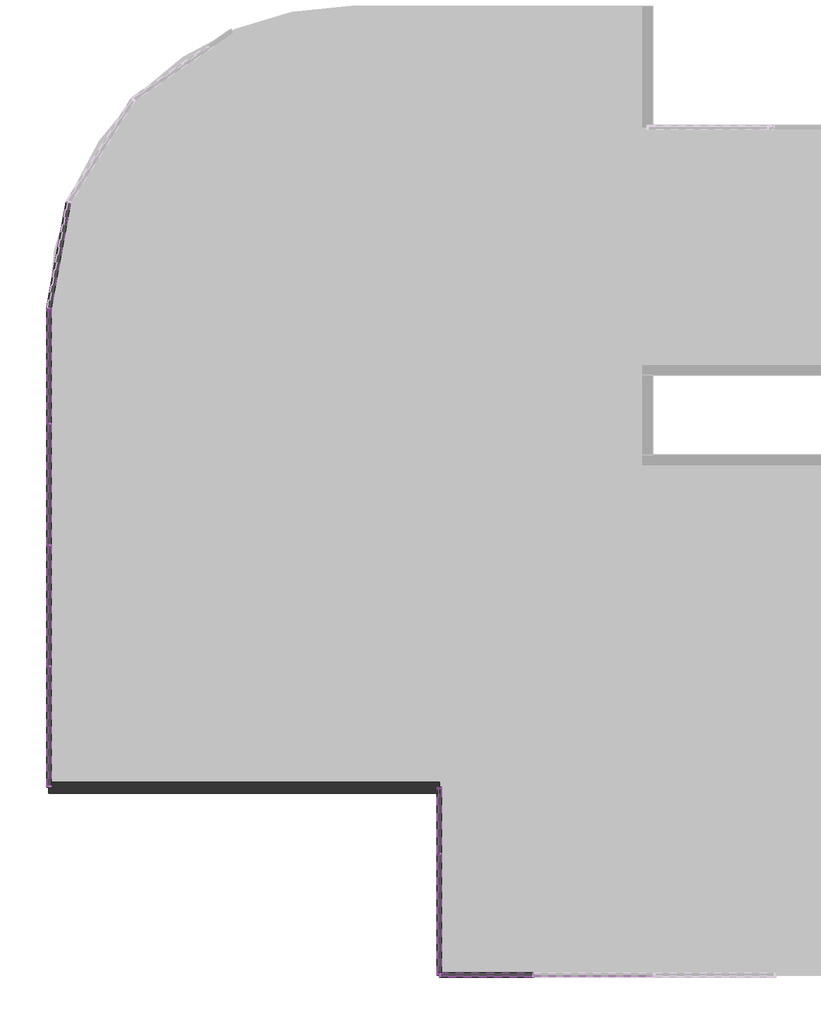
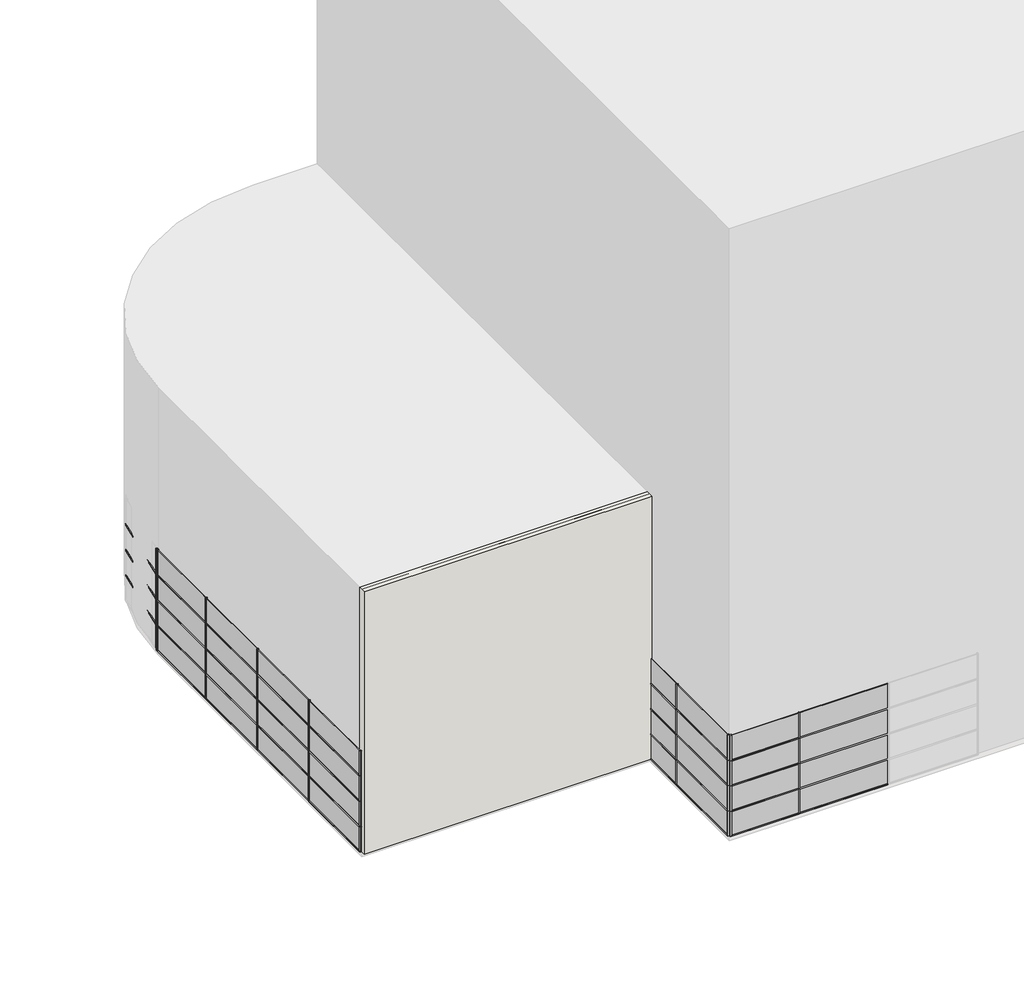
# One storey, part 1 of 4: 76 members, 32 plates, 1 wall.
"""IFC4 building model written with IfcOpenShell, lengths in millimetres."""

from ifc_helpers import new_model, si_unit, origin, origin_with_axes, place, context, project, spatial, polyline, outline, extrude, transform, mapped, element, save
from components import rectangular_mullion_50_x_150mm_d99dc9be, rectangular_mullion_50_x_150mm_182bfbd5, rectangular_mullion_50_x_150mm_402ab136, rectangular_mullion_50_x_150mm_6588f46c, rectangular_mullion_50_x_150mm_a037c29c, rectangular_mullion_50_x_150mm_c2546fd4, rectangular_mullion_50_x_150mm_cd873b1a, rectangular_mullion_50_x_150mm_60738c79, rectangular_mullion_50_x_150mm_bee9d6e8, rectangular_mullion_50_x_150mm_642c3999, rectangular_mullion_50_x_150mm_d9fe8572, rectangular_mullion_50_x_150mm_f56f8a9a, rectangular_mullion_50_x_150mm_a5a25251, system_panel_glazed_ecbc047f, system_panel_glazed_0d1816dc, system_panel_glazed_8e9402eb, system_panel_glazed_89ac83a7, system_panel_glazed_34a378e1, system_panel_glazed_2dc425e2, system_panel_glazed_a7875b16, system_panel_glazed_da5fadb4, system_panel_glazed_e0ec5d24, system_panel_glazed_3a708ec0

model = new_model("IFC4")

# Units and contexts
model_context = context("Model", 3, world=origin())
ifc_project = project(units=[si_unit("LENGTHUNIT", "METRE", prefix="MILLI")], contexts=[model_context])

# Site, building, storey
site = spatial("IfcSite", under=ifc_project)
building = spatial("IfcBuilding", under=site)
storey = spatial("IfcBuildingStorey", under=building, Name="Suteren", Elevation=0.0)

# Members
placement = place(None, origin())
rectangular_mullion_50_x_150mm_shape = rectangular_mullion_50_x_150mm_d99dc9be(model_context)
element("IfcMember", 1, ObjectType="Rectangular Mullion : 50 x 150mm", at=placement, inside=storey, context=model_context, shape_type="MappedRepresentation", body=[
    mapped(rectangular_mullion_50_x_150mm_shape, transform((-2496.7339025, -23624.0160434, 2400.0), x_axis=(-1.0, 0.0, 0.0), y_axis=(0.0, -1.0, 0.0), z_axis=(0.0, 0.0, 1.0))),
])
element("IfcMember", 2, ObjectType="Rectangular Mullion : 50 x 150mm", at=placement, inside=storey, context=model_context, shape_type="MappedRepresentation", body=[
    mapped(rectangular_mullion_50_x_150mm_shape, transform((-2496.7339025, -23624.0160434, 3600.0), x_axis=(-1.0, 0.0, 0.0), y_axis=(0.0, -1.0, 0.0), z_axis=(0.0, 0.0, 1.0))),
])
element("IfcMember", 3, ObjectType="Rectangular Mullion : 50 x 150mm", at=placement, inside=storey, context=model_context, shape_type="MappedRepresentation", body=[
    mapped(rectangular_mullion_50_x_150mm_shape, transform((-2496.7339025, -23624.0160434, 4800.0), x_axis=(-1.0, 0.0, 0.0), y_axis=(0.0, -1.0, 0.0), z_axis=(0.0, 0.0, 1.0))),
])
element("IfcMember", 4, ObjectType="Rectangular Mullion : 50 x 150mm", at=placement, inside=storey, context=model_context, shape_type="MappedRepresentation", body=[
    mapped(rectangular_mullion_50_x_150mm_shape, transform((-5587.173406, -19624.0160434, 2400.0), x_axis=(0.0, 1.0, 0.0), y_axis=(-1.0, 0.0, 0.0), z_axis=(0.0, 0.0, 1.0))),
])
element("IfcMember", 5, ObjectType="Rectangular Mullion : 50 x 150mm", at=placement, inside=storey, context=model_context, shape_type="MappedRepresentation", body=[
    mapped(rectangular_mullion_50_x_150mm_shape, transform((-5587.173406, -19624.0160434, 3600.0), x_axis=(0.0, 1.0, 0.0), y_axis=(-1.0, 0.0, 0.0), z_axis=(0.0, 0.0, 1.0))),
])
element("IfcMember", 6, ObjectType="Rectangular Mullion : 50 x 150mm", at=placement, inside=storey, context=model_context, shape_type="MappedRepresentation", body=[
    mapped(rectangular_mullion_50_x_150mm_shape, transform((-5587.173406, -19624.0160434, 4800.0), x_axis=(0.0, 1.0, 0.0), y_axis=(-1.0, 0.0, 0.0), z_axis=(0.0, 0.0, 1.0))),
])
element("IfcMember", 7, ObjectType="Rectangular Mullion : 50 x 150mm", at=placement, inside=storey, context=model_context, shape_type="MappedRepresentation", body=[
    mapped(rectangular_mullion_50_x_150mm_shape, transform((-18496.7339025, -13423.5291324, 2400.0), x_axis=(0.0, 1.0, 0.0), y_axis=(-1.0, 0.0, 0.0), z_axis=(0.0, 0.0, 1.0))),
])
element("IfcMember", 8, ObjectType="Rectangular Mullion : 50 x 150mm", at=placement, inside=storey, context=model_context, shape_type="MappedRepresentation", body=[
    mapped(rectangular_mullion_50_x_150mm_shape, transform((-18496.7339025, -13423.5291324, 3600.0), x_axis=(0.0, 1.0, 0.0), y_axis=(-1.0, 0.0, 0.0), z_axis=(0.0, 0.0, 1.0))),
])
element("IfcMember", 9, ObjectType="Rectangular Mullion : 50 x 150mm", at=placement, inside=storey, context=model_context, shape_type="MappedRepresentation", body=[
    mapped(rectangular_mullion_50_x_150mm_shape, transform((-18496.7339025, -13423.5291324, 4800.0), x_axis=(0.0, 1.0, 0.0), y_axis=(-1.0, 0.0, 0.0), z_axis=(0.0, 0.0, 1.0))),
])
element("IfcMember", 10, ObjectType="Rectangular Mullion : 50 x 150mm", at=placement, inside=storey, context=model_context, shape_type="MappedRepresentation", body=[
    mapped(rectangular_mullion_50_x_150mm_shape, transform((-18496.7339025, -9423.5291324, 2400.0), x_axis=(0.0, 1.0, 0.0), y_axis=(-1.0, 0.0, 0.0), z_axis=(0.0, 0.0, 1.0))),
])
element("IfcMember", 11, ObjectType="Rectangular Mullion : 50 x 150mm", at=placement, inside=storey, context=model_context, shape_type="MappedRepresentation", body=[
    mapped(rectangular_mullion_50_x_150mm_shape, transform((-18496.7339025, -9423.5291324, 3600.0), x_axis=(0.0, 1.0, 0.0), y_axis=(-1.0, 0.0, 0.0), z_axis=(0.0, 0.0, 1.0))),
])
element("IfcMember", 12, ObjectType="Rectangular Mullion : 50 x 150mm", at=placement, inside=storey, context=model_context, shape_type="MappedRepresentation", body=[
    mapped(rectangular_mullion_50_x_150mm_shape, transform((-18496.7339025, -9423.5291324, 4800.0), x_axis=(0.0, 1.0, 0.0), y_axis=(-1.0, 0.0, 0.0), z_axis=(0.0, 0.0, 1.0))),
])
element("IfcMember", 13, ObjectType="Rectangular Mullion : 50 x 150mm", at=placement, inside=storey, context=model_context, shape_type="MappedRepresentation", body=[
    mapped(rectangular_mullion_50_x_150mm_shape, transform((-18496.7339025, -5423.5291324, 2400.0), x_axis=(0.0, 1.0, 0.0), y_axis=(-1.0, 0.0, 0.0), z_axis=(0.0, 0.0, 1.0))),
])
element("IfcMember", 14, ObjectType="Rectangular Mullion : 50 x 150mm", at=placement, inside=storey, context=model_context, shape_type="MappedRepresentation", body=[
    mapped(rectangular_mullion_50_x_150mm_shape, transform((-18496.7339025, -5423.5291324, 3600.0), x_axis=(0.0, 1.0, 0.0), y_axis=(-1.0, 0.0, 0.0), z_axis=(0.0, 0.0, 1.0))),
])
element("IfcMember", 15, ObjectType="Rectangular Mullion : 50 x 150mm", at=placement, inside=storey, context=model_context, shape_type="MappedRepresentation", body=[
    mapped(rectangular_mullion_50_x_150mm_shape, transform((-18496.7339025, -5423.5291324, 4800.0), x_axis=(0.0, 1.0, 0.0), y_axis=(-1.0, 0.0, 0.0), z_axis=(0.0, 0.0, 1.0))),
])
element("IfcMember", 16, ObjectType="Rectangular Mullion : 50 x 150mm", at=placement, inside=storey, context=model_context, shape_type="MappedRepresentation", body=[
    mapped(rectangular_mullion_50_x_150mm_shape, transform((-2496.7339025, -23624.0160434, 1200.0), x_axis=(-1.0, 0.0, 0.0), y_axis=(0.0, -1.0, 0.0), z_axis=(0.0, 0.0, 1.0))),
])
element("IfcMember", 17, ObjectType="Rectangular Mullion : 50 x 150mm", at=placement, inside=storey, context=model_context, shape_type="MappedRepresentation", body=[
    mapped(rectangular_mullion_50_x_150mm_shape, transform((-5587.173406, -19624.0160434, 1200.0), x_axis=(0.0, 1.0, 0.0), y_axis=(-1.0, 0.0, 0.0), z_axis=(0.0, 0.0, 1.0))),
])
element("IfcMember", 18, ObjectType="Rectangular Mullion : 50 x 150mm", at=placement, inside=storey, context=model_context, shape_type="MappedRepresentation", body=[
    mapped(rectangular_mullion_50_x_150mm_shape, transform((-18496.7339025, -13423.5291324, 1200.0), x_axis=(0.0, 1.0, 0.0), y_axis=(-1.0, 0.0, 0.0), z_axis=(0.0, 0.0, 1.0))),
])
element("IfcMember", 19, ObjectType="Rectangular Mullion : 50 x 150mm", at=placement, inside=storey, context=model_context, shape_type="MappedRepresentation", body=[
    mapped(rectangular_mullion_50_x_150mm_shape, transform((-18496.7339025, -9423.5291324, 1200.0), x_axis=(0.0, 1.0, 0.0), y_axis=(-1.0, 0.0, 0.0), z_axis=(0.0, 0.0, 1.0))),
])
element("IfcMember", 20, ObjectType="Rectangular Mullion : 50 x 150mm", at=placement, inside=storey, context=model_context, shape_type="MappedRepresentation", body=[
    mapped(rectangular_mullion_50_x_150mm_shape, transform((-18496.7339025, -5423.5291324, 1200.0), x_axis=(0.0, 1.0, 0.0), y_axis=(-1.0, 0.0, 0.0), z_axis=(0.0, 0.0, 1.0))),
])
rectangular_mullion_50_x_150mm_2_shape = rectangular_mullion_50_x_150mm_182bfbd5(model_context)
element("IfcMember", 21, ObjectType="Rectangular Mullion : 50 x 150mm", at=placement, inside=storey, context=model_context, shape_type="MappedRepresentation", body=[
    mapped(rectangular_mullion_50_x_150mm_2_shape, transform((-2471.7339025, -23624.0160434, 0.0), x_axis=(0.0, 0.0, -1.0), y_axis=(0.0, -1.0, 0.0), z_axis=(-1.0, 0.0, 0.0))),
])
element("IfcMember", 22, ObjectType="Rectangular Mullion : 50 x 150mm", at=placement, inside=storey, context=model_context, shape_type="MappedRepresentation", body=[
    mapped(rectangular_mullion_50_x_150mm_2_shape, transform((-18496.7339025, -9448.5291324, 0.0), x_axis=(0.0, 0.0, -1.0), y_axis=(-1.0, 0.0, 0.0), z_axis=(0.0, 1.0, 0.0))),
])
element("IfcMember", 23, ObjectType="Rectangular Mullion : 50 x 150mm", at=placement, inside=storey, context=model_context, shape_type="MappedRepresentation", body=[
    mapped(rectangular_mullion_50_x_150mm_2_shape, transform((-18496.7339025, -5448.5291324, 0.0), x_axis=(0.0, 0.0, -1.0), y_axis=(-1.0, 0.0, 0.0), z_axis=(0.0, 1.0, 0.0))),
])
rectangular_mullion_50_x_150mm_3_shape = rectangular_mullion_50_x_150mm_402ab136(model_context)
element("IfcMember", 24, ObjectType="Rectangular Mullion : 50 x 150mm", at=placement, inside=storey, context=model_context, shape_type="MappedRepresentation", body=[
    mapped(rectangular_mullion_50_x_150mm_3_shape, transform((-5587.173406, -19649.0160434, 0.0), x_axis=(0.0, 0.0, -1.0), y_axis=(-1.0, 0.0, 0.0), z_axis=(0.0, 1.0, 0.0))),
])
element("IfcMember", 25, ObjectType="Rectangular Mullion : 50 x 150mm", at=placement, inside=storey, context=model_context, shape_type="MappedRepresentation", body=[
    mapped(rectangular_mullion_50_x_150mm_3_shape, transform((-18496.7339025, -13448.5291324, 0.0), x_axis=(0.0, 0.0, -1.0), y_axis=(-1.0, 0.0, 0.0), z_axis=(0.0, 1.0, 0.0))),
])
rectangular_mullion_50_x_150mm_4_shape = rectangular_mullion_50_x_150mm_6588f46c(model_context)
element("IfcMember", 26, ObjectType="Rectangular Mullion : 50 x 150mm", at=placement, inside=storey, context=model_context, shape_type="MappedRepresentation", body=[
    mapped(rectangular_mullion_50_x_150mm_4_shape, transform((-5587.173406, -23624.0160434, 4800.0), x_axis=(-1.0, 0.0, 0.0), y_axis=(0.0, -1.0, 0.0), z_axis=(0.0, 0.0, 1.0))),
])
element("IfcMember", 27, ObjectType="Rectangular Mullion : 50 x 150mm", at=placement, inside=storey, context=model_context, shape_type="MappedRepresentation", body=[
    mapped(rectangular_mullion_50_x_150mm_4_shape, transform((-5587.173406, -23624.0160434, 2400.0), x_axis=(-1.0, 0.0, 0.0), y_axis=(0.0, -1.0, 0.0), z_axis=(0.0, 0.0, 1.0))),
])
element("IfcMember", 28, ObjectType="Rectangular Mullion : 50 x 150mm", at=placement, inside=storey, context=model_context, shape_type="MappedRepresentation", body=[
    mapped(rectangular_mullion_50_x_150mm_4_shape, transform((-5587.173406, -23624.0160434, 3600.0), x_axis=(-1.0, 0.0, 0.0), y_axis=(0.0, -1.0, 0.0), z_axis=(0.0, 0.0, 1.0))),
])
element("IfcMember", 29, ObjectType="Rectangular Mullion : 50 x 150mm", at=placement, inside=storey, context=model_context, shape_type="MappedRepresentation", body=[
    mapped(rectangular_mullion_50_x_150mm_4_shape, transform((-5587.173406, -17423.5291324, 2400.0), x_axis=(0.0, 1.0, 0.0), y_axis=(-1.0, 0.0, 0.0), z_axis=(0.0, 0.0, 1.0))),
])
element("IfcMember", 30, ObjectType="Rectangular Mullion : 50 x 150mm", at=placement, inside=storey, context=model_context, shape_type="MappedRepresentation", body=[
    mapped(rectangular_mullion_50_x_150mm_4_shape, transform((-5587.173406, -17423.5291324, 3600.0), x_axis=(0.0, 1.0, 0.0), y_axis=(-1.0, 0.0, 0.0), z_axis=(0.0, 0.0, 1.0))),
])
element("IfcMember", 31, ObjectType="Rectangular Mullion : 50 x 150mm", at=placement, inside=storey, context=model_context, shape_type="MappedRepresentation", body=[
    mapped(rectangular_mullion_50_x_150mm_4_shape, transform((-5587.173406, -17423.5291324, 4800.0), x_axis=(0.0, 1.0, 0.0), y_axis=(-1.0, 0.0, 0.0), z_axis=(0.0, 0.0, 1.0))),
])
element("IfcMember", 32, ObjectType="Rectangular Mullion : 50 x 150mm", at=placement, inside=storey, context=model_context, shape_type="MappedRepresentation", body=[
    mapped(rectangular_mullion_50_x_150mm_4_shape, transform((-18496.7339025, -1624.0160434, 2400.0), x_axis=(0.0, 1.0, 0.0), y_axis=(-1.0, 0.0, 0.0), z_axis=(0.0, 0.0, 1.0))),
])
element("IfcMember", 33, ObjectType="Rectangular Mullion : 50 x 150mm", at=placement, inside=storey, context=model_context, shape_type="MappedRepresentation", body=[
    mapped(rectangular_mullion_50_x_150mm_4_shape, transform((-18496.7339025, -1624.0160434, 3600.0), x_axis=(0.0, 1.0, 0.0), y_axis=(-1.0, 0.0, 0.0), z_axis=(0.0, 0.0, 1.0))),
])
element("IfcMember", 34, ObjectType="Rectangular Mullion : 50 x 150mm", at=placement, inside=storey, context=model_context, shape_type="MappedRepresentation", body=[
    mapped(rectangular_mullion_50_x_150mm_4_shape, transform((-18496.7339025, -1624.0160434, 4800.0), x_axis=(0.0, 1.0, 0.0), y_axis=(-1.0, 0.0, 0.0), z_axis=(0.0, 0.0, 1.0))),
])
element("IfcMember", 35, ObjectType="Rectangular Mullion : 50 x 150mm", at=placement, inside=storey, context=model_context, shape_type="MappedRepresentation", body=[
    mapped(rectangular_mullion_50_x_150mm_4_shape, transform((-5587.173406, -23624.0160434, 1200.0), x_axis=(-1.0, 0.0, 0.0), y_axis=(0.0, -1.0, 0.0), z_axis=(0.0, 0.0, 1.0))),
])
element("IfcMember", 36, ObjectType="Rectangular Mullion : 50 x 150mm", at=placement, inside=storey, context=model_context, shape_type="MappedRepresentation", body=[
    mapped(rectangular_mullion_50_x_150mm_4_shape, transform((-5587.173406, -17423.5291324, 1200.0), x_axis=(0.0, 1.0, 0.0), y_axis=(-1.0, 0.0, 0.0), z_axis=(0.0, 0.0, 1.0))),
])
element("IfcMember", 37, ObjectType="Rectangular Mullion : 50 x 150mm", at=placement, inside=storey, context=model_context, shape_type="MappedRepresentation", body=[
    mapped(rectangular_mullion_50_x_150mm_4_shape, transform((-18496.7339025, -1624.0160434, 1200.0), x_axis=(0.0, 1.0, 0.0), y_axis=(-1.0, 0.0, 0.0), z_axis=(0.0, 0.0, 1.0))),
])
rectangular_mullion_50_x_150mm_5_shape = rectangular_mullion_50_x_150mm_a037c29c(model_context)
element("IfcMember", 38, ObjectType="Rectangular Mullion : 50 x 150mm", at=placement, inside=storey, context=model_context, shape_type="MappedRepresentation", body=[
    mapped(rectangular_mullion_50_x_150mm_5_shape, transform((-18496.7339025, -13398.5291324, 2400.0), x_axis=(0.0, 0.0, 1.0), y_axis=(-1.0, 0.0, 0.0), z_axis=(0.0, -1.0, 0.0))),
])
element("IfcMember", 39, ObjectType="Rectangular Mullion : 50 x 150mm", at=placement, inside=storey, context=model_context, shape_type="MappedRepresentation", body=[
    mapped(rectangular_mullion_50_x_150mm_5_shape, transform((-18496.7339025, -9398.5291324, 2400.0), x_axis=(0.0, 0.0, 1.0), y_axis=(-1.0, 0.0, 0.0), z_axis=(0.0, -1.0, 0.0))),
])
element("IfcMember", 40, ObjectType="Rectangular Mullion : 50 x 150mm", at=placement, inside=storey, context=model_context, shape_type="MappedRepresentation", body=[
    mapped(rectangular_mullion_50_x_150mm_5_shape, transform((-18496.7339025, -13398.5291324, 3600.0), x_axis=(0.0, 0.0, 1.0), y_axis=(-1.0, 0.0, 0.0), z_axis=(0.0, -1.0, 0.0))),
])
element("IfcMember", 41, ObjectType="Rectangular Mullion : 50 x 150mm", at=placement, inside=storey, context=model_context, shape_type="MappedRepresentation", body=[
    mapped(rectangular_mullion_50_x_150mm_5_shape, transform((-18496.7339025, -9398.5291324, 3600.0), x_axis=(0.0, 0.0, 1.0), y_axis=(-1.0, 0.0, 0.0), z_axis=(0.0, -1.0, 0.0))),
])
element("IfcMember", 42, ObjectType="Rectangular Mullion : 50 x 150mm", at=placement, inside=storey, context=model_context, shape_type="MappedRepresentation", body=[
    mapped(rectangular_mullion_50_x_150mm_5_shape, transform((-18496.7339025, -13398.5291324, 1200.0), x_axis=(0.0, 0.0, 1.0), y_axis=(-1.0, 0.0, 0.0), z_axis=(0.0, -1.0, 0.0))),
])
element("IfcMember", 43, ObjectType="Rectangular Mullion : 50 x 150mm", at=placement, inside=storey, context=model_context, shape_type="MappedRepresentation", body=[
    mapped(rectangular_mullion_50_x_150mm_5_shape, transform((-18496.7339025, -9398.5291324, 1200.0), x_axis=(0.0, 0.0, 1.0), y_axis=(-1.0, 0.0, 0.0), z_axis=(0.0, -1.0, 0.0))),
])
rectangular_mullion_50_x_150mm_6_shape = rectangular_mullion_50_x_150mm_c2546fd4(model_context)
element("IfcMember", 44, ObjectType="Rectangular Mullion : 50 x 150mm", at=placement, inside=storey, context=model_context, shape_type="MappedRepresentation", body=[
    mapped(rectangular_mullion_50_x_150mm_6_shape, transform((-5587.173406, -23574.0160434, 1200.0), x_axis=(0.0, 0.0, 1.0), y_axis=(-1.0, 0.0, 0.0), z_axis=(0.0, -1.0, 0.0))),
])
element("IfcMember", 45, ObjectType="Rectangular Mullion : 50 x 150mm", at=placement, inside=storey, context=model_context, shape_type="MappedRepresentation", body=[
    mapped(rectangular_mullion_50_x_150mm_6_shape, transform((-5587.173406, -23574.0160434, 2400.0), x_axis=(0.0, 0.0, 1.0), y_axis=(-1.0, 0.0, 0.0), z_axis=(0.0, -1.0, 0.0))),
])
element("IfcMember", 46, ObjectType="Rectangular Mullion : 50 x 150mm", at=placement, inside=storey, context=model_context, shape_type="MappedRepresentation", body=[
    mapped(rectangular_mullion_50_x_150mm_6_shape, transform((-5587.173406, -23574.0160434, 3600.0), x_axis=(0.0, 0.0, 1.0), y_axis=(-1.0, 0.0, 0.0), z_axis=(0.0, -1.0, 0.0))),
])
element("IfcMember", 47, ObjectType="Rectangular Mullion : 50 x 150mm", at=placement, inside=storey, context=model_context, shape_type="MappedRepresentation", body=[
    mapped(rectangular_mullion_50_x_150mm_6_shape, transform((-18496.7339025, -17373.5291324, 2400.0), x_axis=(0.0, 0.0, 1.0), y_axis=(-1.0, 0.0, 0.0), z_axis=(0.0, -1.0, 0.0))),
])
element("IfcMember", 48, ObjectType="Rectangular Mullion : 50 x 150mm", at=placement, inside=storey, context=model_context, shape_type="MappedRepresentation", body=[
    mapped(rectangular_mullion_50_x_150mm_6_shape, transform((-18496.7339025, -17373.5291324, 3600.0), x_axis=(0.0, 0.0, 1.0), y_axis=(-1.0, 0.0, 0.0), z_axis=(0.0, -1.0, 0.0))),
])
element("IfcMember", 49, ObjectType="Rectangular Mullion : 50 x 150mm", at=placement, inside=storey, context=model_context, shape_type="MappedRepresentation", body=[
    mapped(rectangular_mullion_50_x_150mm_6_shape, transform((-18496.7339025, -17373.5291324, 1200.0), x_axis=(0.0, 0.0, 1.0), y_axis=(-1.0, 0.0, 0.0), z_axis=(0.0, -1.0, 0.0))),
])
element("IfcMember", 50, ObjectType="Rectangular Mullion : 50 x 150mm", at=placement, inside=storey, context=model_context, shape_type="MappedRepresentation", body=[
    mapped(rectangular_mullion_50_x_150mm_4_shape, transform((-5587.173406, -23624.0160434, 1200.0), x_axis=(0.0, -1.0, 0.0), y_axis=(-1.0, 0.0, 0.0), z_axis=(0.0, 0.0, -1.0))),
])
element("IfcMember", 51, ObjectType="Rectangular Mullion : 50 x 150mm", at=placement, inside=storey, context=model_context, shape_type="MappedRepresentation", body=[
    mapped(rectangular_mullion_50_x_150mm_4_shape, transform((-5587.173406, -23624.0160434, 2400.0), x_axis=(0.0, -1.0, 0.0), y_axis=(-1.0, 0.0, 0.0), z_axis=(0.0, 0.0, -1.0))),
])
element("IfcMember", 52, ObjectType="Rectangular Mullion : 50 x 150mm", at=placement, inside=storey, context=model_context, shape_type="MappedRepresentation", body=[
    mapped(rectangular_mullion_50_x_150mm_4_shape, transform((-5587.173406, -23624.0160434, 3600.0), x_axis=(0.0, -1.0, 0.0), y_axis=(-1.0, 0.0, 0.0), z_axis=(0.0, 0.0, -1.0))),
])
element("IfcMember", 53, ObjectType="Rectangular Mullion : 50 x 150mm", at=placement, inside=storey, context=model_context, shape_type="MappedRepresentation", body=[
    mapped(rectangular_mullion_50_x_150mm_4_shape, transform((-18496.7339025, -1624.0160434, 1200.0), x_axis=(-0.18033241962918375, -0.9836057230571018, 0.0), y_axis=(-0.9836057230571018, 0.18033241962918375, 0.0), z_axis=(0.0, 0.0, -1.0))),
])
element("IfcMember", 54, ObjectType="Rectangular Mullion : 50 x 150mm", at=placement, inside=storey, context=model_context, shape_type="MappedRepresentation", body=[
    mapped(rectangular_mullion_50_x_150mm_4_shape, transform((-18496.7339025, -1624.0160434, 2400.0), x_axis=(-0.18033241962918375, -0.9836057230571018, 0.0), y_axis=(-0.9836057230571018, 0.18033241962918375, 0.0), z_axis=(0.0, 0.0, -1.0))),
])
element("IfcMember", 55, ObjectType="Rectangular Mullion : 50 x 150mm", at=placement, inside=storey, context=model_context, shape_type="MappedRepresentation", body=[
    mapped(rectangular_mullion_50_x_150mm_4_shape, transform((-18496.7339025, -1624.0160434, 3600.0), x_axis=(-0.18033241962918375, -0.9836057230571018, 0.0), y_axis=(-0.9836057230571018, 0.18033241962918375, 0.0), z_axis=(0.0, 0.0, -1.0))),
])
element("IfcMember", 56, ObjectType="Rectangular Mullion : 50 x 150mm", at=placement, inside=storey, context=model_context, shape_type="MappedRepresentation", body=[
    mapped(rectangular_mullion_50_x_150mm_4_shape, transform((-18496.7339025, -17423.5291324, 2400.0), x_axis=(0.0, -1.0, 0.0), y_axis=(-1.0, 0.0, 0.0), z_axis=(0.0, 0.0, -1.0))),
])
element("IfcMember", 57, ObjectType="Rectangular Mullion : 50 x 150mm", at=placement, inside=storey, context=model_context, shape_type="MappedRepresentation", body=[
    mapped(rectangular_mullion_50_x_150mm_4_shape, transform((-18496.7339025, -17423.5291324, 3600.0), x_axis=(0.0, -1.0, 0.0), y_axis=(-1.0, 0.0, 0.0), z_axis=(0.0, 0.0, -1.0))),
])
element("IfcMember", 58, ObjectType="Rectangular Mullion : 50 x 150mm", at=placement, inside=storey, context=model_context, shape_type="MappedRepresentation", body=[
    mapped(rectangular_mullion_50_x_150mm_4_shape, transform((-18496.7339025, -17423.5291324, 1200.0), x_axis=(0.0, -1.0, 0.0), y_axis=(-1.0, 0.0, 0.0), z_axis=(0.0, 0.0, -1.0))),
])
element("IfcMember", 59, ObjectType="Rectangular Mullion : 50 x 150mm", at=placement, inside=storey, context=model_context, shape_type="MappedRepresentation", body=[
    mapped(rectangular_mullion_50_x_150mm_4_shape, transform((-5587.173406, -23624.0160434, 0.0), x_axis=(0.0, -1.0, 0.0), y_axis=(-1.0, 0.0, 0.0), z_axis=(0.0, 0.0, -1.0))),
])
element("IfcMember", 60, ObjectType="Rectangular Mullion : 50 x 150mm", at=placement, inside=storey, context=model_context, shape_type="MappedRepresentation", body=[
    mapped(rectangular_mullion_50_x_150mm_4_shape, transform((-18496.7339025, -1624.0160434, 0.0), x_axis=(-0.18033241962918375, -0.9836057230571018, 0.0), y_axis=(-0.9836057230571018, 0.18033241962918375, 0.0), z_axis=(0.0, 0.0, -1.0))),
])
element("IfcMember", 61, ObjectType="Rectangular Mullion : 50 x 150mm", at=placement, inside=storey, context=model_context, shape_type="MappedRepresentation", body=[
    mapped(rectangular_mullion_50_x_150mm_4_shape, transform((-18496.7339025, -17423.5291324, 0.0), x_axis=(0.0, -1.0, 0.0), y_axis=(-1.0, 0.0, 0.0), z_axis=(0.0, 0.0, -1.0))),
])
rectangular_mullion_50_x_150mm_7_shape = rectangular_mullion_50_x_150mm_cd873b1a(model_context)
element("IfcMember", 62, ObjectType="Rectangular Mullion : 50 x 150mm", at=placement, inside=storey, context=model_context, shape_type="MappedRepresentation", body=[
    mapped(rectangular_mullion_50_x_150mm_7_shape, transform((-2521.7339025, -23624.0160434, 3600.0), x_axis=(0.0, 0.0, 1.0), y_axis=(0.0, -1.0, 0.0), z_axis=(1.0, 0.0, 0.0))),
])
element("IfcMember", 63, ObjectType="Rectangular Mullion : 50 x 150mm", at=placement, inside=storey, context=model_context, shape_type="MappedRepresentation", body=[
    mapped(rectangular_mullion_50_x_150mm_7_shape, transform((-2521.7339025, -23624.0160434, 1200.0), x_axis=(0.0, 0.0, 1.0), y_axis=(0.0, -1.0, 0.0), z_axis=(1.0, 0.0, 0.0))),
])
element("IfcMember", 64, ObjectType="Rectangular Mullion : 50 x 150mm", at=placement, inside=storey, context=model_context, shape_type="MappedRepresentation", body=[
    mapped(rectangular_mullion_50_x_150mm_7_shape, transform((-2521.7339025, -23624.0160434, 2400.0), x_axis=(0.0, 0.0, 1.0), y_axis=(0.0, -1.0, 0.0), z_axis=(1.0, 0.0, 0.0))),
])
rectangular_mullion_50_x_150mm_8_shape = rectangular_mullion_50_x_150mm_60738c79(model_context)
element("IfcMember", 65, ObjectType="Rectangular Mullion : 50 x 150mm", at=placement, inside=storey, context=model_context, shape_type="MappedRepresentation", body=[
    mapped(rectangular_mullion_50_x_150mm_8_shape, transform((-5537.173406, -23624.0160434, 0.0), x_axis=(0.0, 0.0, -1.0), y_axis=(0.0, -1.0, 0.0), z_axis=(-1.0, 0.0, 0.0))),
])
rectangular_mullion_50_x_150mm_9_shape = rectangular_mullion_50_x_150mm_bee9d6e8(model_context)
element("IfcMember", 66, ObjectType="Rectangular Mullion : 50 x 150mm", at=placement, inside=storey, context=model_context, shape_type="MappedRepresentation", body=[
    mapped(rectangular_mullion_50_x_150mm_9_shape, transform((-5587.173406, -17473.5291324, 0.0), x_axis=(0.0, 0.0, -1.0), y_axis=(-1.0, 0.0, 0.0), z_axis=(0.0, 1.0, 0.0))),
])
rectangular_mullion_50_x_150mm_10_shape = rectangular_mullion_50_x_150mm_642c3999(model_context)
element("IfcMember", 67, ObjectType="Rectangular Mullion : 50 x 150mm", at=placement, inside=storey, context=model_context, shape_type="MappedRepresentation", body=[
    mapped(rectangular_mullion_50_x_150mm_10_shape, transform((-5587.173406, -19599.0160434, 1200.0), x_axis=(0.0, 0.0, 1.0), y_axis=(-1.0, 0.0, 0.0), z_axis=(0.0, -1.0, 0.0))),
])
element("IfcMember", 68, ObjectType="Rectangular Mullion : 50 x 150mm", at=placement, inside=storey, context=model_context, shape_type="MappedRepresentation", body=[
    mapped(rectangular_mullion_50_x_150mm_10_shape, transform((-5587.173406, -19599.0160434, 2400.0), x_axis=(0.0, 0.0, 1.0), y_axis=(-1.0, 0.0, 0.0), z_axis=(0.0, -1.0, 0.0))),
])
element("IfcMember", 69, ObjectType="Rectangular Mullion : 50 x 150mm", at=placement, inside=storey, context=model_context, shape_type="MappedRepresentation", body=[
    mapped(rectangular_mullion_50_x_150mm_10_shape, transform((-5587.173406, -19599.0160434, 3600.0), x_axis=(0.0, 0.0, 1.0), y_axis=(-1.0, 0.0, 0.0), z_axis=(0.0, -1.0, 0.0))),
])
rectangular_mullion_50_x_150mm_11_shape = rectangular_mullion_50_x_150mm_d9fe8572(model_context)
element("IfcMember", 70, ObjectType="Rectangular Mullion : 50 x 150mm", at=placement, inside=storey, context=model_context, shape_type="MappedRepresentation", body=[
    mapped(rectangular_mullion_50_x_150mm_11_shape, transform((-18487.7172815, -1574.8357573, 1200.0), x_axis=(0.0, 0.0, 1.0), y_axis=(-0.9836057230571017, 0.1803324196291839, 0.0), z_axis=(-0.1803324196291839, -0.9836057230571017, 0.0))),
])
element("IfcMember", 71, ObjectType="Rectangular Mullion : 50 x 150mm", at=placement, inside=storey, context=model_context, shape_type="MappedRepresentation", body=[
    mapped(rectangular_mullion_50_x_150mm_11_shape, transform((-18487.7172815, -1574.8357573, 2400.0), x_axis=(0.0, 0.0, 1.0), y_axis=(-0.9836057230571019, 0.18033241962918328, 0.0), z_axis=(-0.18033241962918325, -0.9836057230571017, 0.0))),
])
element("IfcMember", 72, ObjectType="Rectangular Mullion : 50 x 150mm", at=placement, inside=storey, context=model_context, shape_type="MappedRepresentation", body=[
    mapped(rectangular_mullion_50_x_150mm_11_shape, transform((-18487.7172815, -1574.8357573, 3600.0), x_axis=(0.0, 0.0, 1.0), y_axis=(-0.9836057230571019, 0.18033241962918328, 0.0), z_axis=(-0.18033241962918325, -0.9836057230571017, 0.0))),
])
rectangular_mullion_50_x_150mm_12_shape = rectangular_mullion_50_x_150mm_f56f8a9a(model_context)
element("IfcMember", 73, ObjectType="Rectangular Mullion : 50 x 150mm", at=placement, inside=storey, context=model_context, shape_type="MappedRepresentation", body=[
    mapped(rectangular_mullion_50_x_150mm_12_shape, transform((-18496.7339025, -5398.5291324, 2400.0), x_axis=(0.0, 0.0, 1.0), y_axis=(-1.0, 0.0, 0.0), z_axis=(0.0, -1.0, 0.0))),
])
element("IfcMember", 74, ObjectType="Rectangular Mullion : 50 x 150mm", at=placement, inside=storey, context=model_context, shape_type="MappedRepresentation", body=[
    mapped(rectangular_mullion_50_x_150mm_12_shape, transform((-18496.7339025, -5398.5291324, 3600.0), x_axis=(0.0, 0.0, 1.0), y_axis=(-1.0, 0.0, 0.0), z_axis=(0.0, -1.0, 0.0))),
])
element("IfcMember", 75, ObjectType="Rectangular Mullion : 50 x 150mm", at=placement, inside=storey, context=model_context, shape_type="MappedRepresentation", body=[
    mapped(rectangular_mullion_50_x_150mm_12_shape, transform((-18496.7339025, -5398.5291324, 1200.0), x_axis=(0.0, 0.0, 1.0), y_axis=(-1.0, 0.0, 0.0), z_axis=(0.0, -1.0, 0.0))),
])
rectangular_mullion_50_x_150mm_13_shape = rectangular_mullion_50_x_150mm_a5a25251(model_context)
element("IfcMember", 76, ObjectType="Rectangular Mullion : 50 x 150mm", at=placement, inside=storey, context=model_context, shape_type="MappedRepresentation", body=[
    mapped(rectangular_mullion_50_x_150mm_13_shape, transform((-18496.7339025, -1674.0160434, 0.0), x_axis=(0.0, 0.0, -1.0), y_axis=(-1.0, 0.0, 0.0), z_axis=(0.0, 1.0, 0.0))),
])

# Plates
system_panel_glazed_shape = system_panel_glazed_ecbc047f(model_context)
element("IfcPlate", 77, ObjectType="System Panel : Glazed", at=placement, inside=storey, context=model_context, shape_type="MappedRepresentation", body=[
    mapped(system_panel_glazed_shape, transform((-5587.173406, -21611.5160434, 50.0), x_axis=(0.0, 1.0, 0.0), y_axis=(-1.0, 0.0, 0.0), z_axis=(0.0, 0.0, 1.0))),
])
element("IfcPlate", 78, ObjectType="System Panel : Glazed", at=placement, inside=storey, context=model_context, shape_type="MappedRepresentation", body=[
    mapped(system_panel_glazed_shape, transform((-18496.7339025, -15411.0291324, 50.0), x_axis=(0.0, 1.0, 0.0), y_axis=(-1.0, 0.0, 0.0), z_axis=(0.0, 0.0, 1.0))),
])
system_panel_glazed_2_shape = system_panel_glazed_0d1816dc(model_context)
element("IfcPlate", 79, ObjectType="System Panel : Glazed", at=placement, inside=storey, context=model_context, shape_type="MappedRepresentation", body=[
    mapped(system_panel_glazed_2_shape, transform((-496.7339025, -23624.0160434, 50.0), x_axis=(-1.0, 0.0, 0.0), y_axis=(0.0, -1.0, 0.0), z_axis=(0.0, 0.0, 1.0))),
])
element("IfcPlate", 80, ObjectType="System Panel : Glazed", at=placement, inside=storey, context=model_context, shape_type="MappedRepresentation", body=[
    mapped(system_panel_glazed_2_shape, transform((-18496.7339025, -11423.5291324, 50.0), x_axis=(0.0, 1.0, 0.0), y_axis=(-1.0, 0.0, 0.0), z_axis=(0.0, 0.0, 1.0))),
])
element("IfcPlate", 81, ObjectType="System Panel : Glazed", at=placement, inside=storey, context=model_context, shape_type="MappedRepresentation", body=[
    mapped(system_panel_glazed_2_shape, transform((-18496.7339025, -7423.5291324, 50.0), x_axis=(0.0, 1.0, 0.0), y_axis=(-1.0, 0.0, 0.0), z_axis=(0.0, 0.0, 1.0))),
])
system_panel_glazed_3_shape = system_panel_glazed_8e9402eb(model_context)
element("IfcPlate", 82, ObjectType="System Panel : Glazed", at=placement, inside=storey, context=model_context, shape_type="MappedRepresentation", body=[
    mapped(system_panel_glazed_3_shape, transform((-5587.173406, -21611.5160434, 1225.0), x_axis=(0.0, 1.0, 0.0), y_axis=(-1.0, 0.0, 0.0), z_axis=(0.0, 0.0, 1.0))),
])
element("IfcPlate", 83, ObjectType="System Panel : Glazed", at=placement, inside=storey, context=model_context, shape_type="MappedRepresentation", body=[
    mapped(system_panel_glazed_3_shape, transform((-5587.173406, -21611.5160434, 2425.0), x_axis=(0.0, 1.0, 0.0), y_axis=(-1.0, 0.0, 0.0), z_axis=(0.0, 0.0, 1.0))),
])
element("IfcPlate", 84, ObjectType="System Panel : Glazed", at=placement, inside=storey, context=model_context, shape_type="MappedRepresentation", body=[
    mapped(system_panel_glazed_3_shape, transform((-5587.173406, -21611.5160434, 3625.0), x_axis=(0.0, 1.0, 0.0), y_axis=(-1.0, 0.0, 0.0), z_axis=(0.0, 0.0, 1.0))),
])
element("IfcPlate", 85, ObjectType="System Panel : Glazed", at=placement, inside=storey, context=model_context, shape_type="MappedRepresentation", body=[
    mapped(system_panel_glazed_3_shape, transform((-18496.7339025, -15411.0291324, 1225.0), x_axis=(0.0, 1.0, 0.0), y_axis=(-1.0, 0.0, 0.0), z_axis=(0.0, 0.0, 1.0))),
])
element("IfcPlate", 86, ObjectType="System Panel : Glazed", at=placement, inside=storey, context=model_context, shape_type="MappedRepresentation", body=[
    mapped(system_panel_glazed_3_shape, transform((-18496.7339025, -15411.0291324, 2425.0), x_axis=(0.0, 1.0, 0.0), y_axis=(-1.0, 0.0, 0.0), z_axis=(0.0, 0.0, 1.0))),
])
element("IfcPlate", 87, ObjectType="System Panel : Glazed", at=placement, inside=storey, context=model_context, shape_type="MappedRepresentation", body=[
    mapped(system_panel_glazed_3_shape, transform((-18496.7339025, -15411.0291324, 3625.0), x_axis=(0.0, 1.0, 0.0), y_axis=(-1.0, 0.0, 0.0), z_axis=(0.0, 0.0, 1.0))),
])
system_panel_glazed_4_shape = system_panel_glazed_89ac83a7(model_context)
element("IfcPlate", 88, ObjectType="System Panel : Glazed", at=placement, inside=storey, context=model_context, shape_type="MappedRepresentation", body=[
    mapped(system_panel_glazed_4_shape, transform((-496.7339025, -23624.0160434, 1225.0), x_axis=(-1.0, 0.0, 0.0), y_axis=(0.0, -1.0, 0.0), z_axis=(0.0, 0.0, 1.0))),
])
element("IfcPlate", 89, ObjectType="System Panel : Glazed", at=placement, inside=storey, context=model_context, shape_type="MappedRepresentation", body=[
    mapped(system_panel_glazed_4_shape, transform((-496.7339025, -23624.0160434, 2425.0), x_axis=(-1.0, 0.0, 0.0), y_axis=(0.0, -1.0, 0.0), z_axis=(0.0, 0.0, 1.0))),
])
element("IfcPlate", 90, ObjectType="System Panel : Glazed", at=placement, inside=storey, context=model_context, shape_type="MappedRepresentation", body=[
    mapped(system_panel_glazed_4_shape, transform((-496.7339025, -23624.0160434, 3625.0), x_axis=(-1.0, 0.0, 0.0), y_axis=(0.0, -1.0, 0.0), z_axis=(0.0, 0.0, 1.0))),
])
element("IfcPlate", 91, ObjectType="System Panel : Glazed", at=placement, inside=storey, context=model_context, shape_type="MappedRepresentation", body=[
    mapped(system_panel_glazed_4_shape, transform((-18496.7339025, -11423.5291324, 1225.0), x_axis=(0.0, 1.0, 0.0), y_axis=(-1.0, 0.0, 0.0), z_axis=(0.0, 0.0, 1.0))),
])
element("IfcPlate", 92, ObjectType="System Panel : Glazed", at=placement, inside=storey, context=model_context, shape_type="MappedRepresentation", body=[
    mapped(system_panel_glazed_4_shape, transform((-18496.7339025, -7423.5291324, 1225.0), x_axis=(0.0, 1.0, 0.0), y_axis=(-1.0, 0.0, 0.0), z_axis=(0.0, 0.0, 1.0))),
])
element("IfcPlate", 93, ObjectType="System Panel : Glazed", at=placement, inside=storey, context=model_context, shape_type="MappedRepresentation", body=[
    mapped(system_panel_glazed_4_shape, transform((-18496.7339025, -11423.5291324, 2425.0), x_axis=(0.0, 1.0, 0.0), y_axis=(-1.0, 0.0, 0.0), z_axis=(0.0, 0.0, 1.0))),
])
element("IfcPlate", 94, ObjectType="System Panel : Glazed", at=placement, inside=storey, context=model_context, shape_type="MappedRepresentation", body=[
    mapped(system_panel_glazed_4_shape, transform((-18496.7339025, -7423.5291324, 2425.0), x_axis=(0.0, 1.0, 0.0), y_axis=(-1.0, 0.0, 0.0), z_axis=(0.0, 0.0, 1.0))),
])
element("IfcPlate", 95, ObjectType="System Panel : Glazed", at=placement, inside=storey, context=model_context, shape_type="MappedRepresentation", body=[
    mapped(system_panel_glazed_4_shape, transform((-18496.7339025, -11423.5291324, 3625.0), x_axis=(0.0, 1.0, 0.0), y_axis=(-1.0, 0.0, 0.0), z_axis=(0.0, 0.0, 1.0))),
])
element("IfcPlate", 96, ObjectType="System Panel : Glazed", at=placement, inside=storey, context=model_context, shape_type="MappedRepresentation", body=[
    mapped(system_panel_glazed_4_shape, transform((-18496.7339025, -7423.5291324, 3625.0), x_axis=(0.0, 1.0, 0.0), y_axis=(-1.0, 0.0, 0.0), z_axis=(0.0, 0.0, 1.0))),
])
system_panel_glazed_5_shape = system_panel_glazed_34a378e1(model_context)
element("IfcPlate", 97, ObjectType="System Panel : Glazed", at=placement, inside=storey, context=model_context, shape_type="MappedRepresentation", body=[
    mapped(system_panel_glazed_5_shape, transform((-4029.4536543, -23624.0160434, 50.0), x_axis=(-1.0, 0.0, 0.0), y_axis=(0.0, -1.0, 0.0), z_axis=(0.0, 0.0, 1.0))),
])
system_panel_glazed_6_shape = system_panel_glazed_2dc425e2(model_context)
element("IfcPlate", 98, ObjectType="System Panel : Glazed", at=placement, inside=storey, context=model_context, shape_type="MappedRepresentation", body=[
    mapped(system_panel_glazed_6_shape, transform((-4029.4536543, -23624.0160434, 1225.0), x_axis=(-1.0, 0.0, 0.0), y_axis=(0.0, -1.0, 0.0), z_axis=(0.0, 0.0, 1.0))),
])
element("IfcPlate", 99, ObjectType="System Panel : Glazed", at=placement, inside=storey, context=model_context, shape_type="MappedRepresentation", body=[
    mapped(system_panel_glazed_6_shape, transform((-4029.4536543, -23624.0160434, 2425.0), x_axis=(-1.0, 0.0, 0.0), y_axis=(0.0, -1.0, 0.0), z_axis=(0.0, 0.0, 1.0))),
])
element("IfcPlate", 100, ObjectType="System Panel : Glazed", at=placement, inside=storey, context=model_context, shape_type="MappedRepresentation", body=[
    mapped(system_panel_glazed_6_shape, transform((-4029.4536543, -23624.0160434, 3625.0), x_axis=(-1.0, 0.0, 0.0), y_axis=(0.0, -1.0, 0.0), z_axis=(0.0, 0.0, 1.0))),
])
system_panel_glazed_7_shape = system_panel_glazed_a7875b16(model_context)
element("IfcPlate", 101, ObjectType="System Panel : Glazed", at=placement, inside=storey, context=model_context, shape_type="MappedRepresentation", body=[
    mapped(system_panel_glazed_7_shape, transform((-5587.173406, -18536.2725879, 50.0), x_axis=(0.0, 1.0, 0.0), y_axis=(-1.0, 0.0, 0.0), z_axis=(0.0, 0.0, 1.0))),
])
system_panel_glazed_8_shape = system_panel_glazed_da5fadb4(model_context)
element("IfcPlate", 102, ObjectType="System Panel : Glazed", at=placement, inside=storey, context=model_context, shape_type="MappedRepresentation", body=[
    mapped(system_panel_glazed_8_shape, transform((-5587.173406, -18536.2725879, 1225.0), x_axis=(0.0, 1.0, 0.0), y_axis=(-1.0, 0.0, 0.0), z_axis=(0.0, 0.0, 1.0))),
])
element("IfcPlate", 103, ObjectType="System Panel : Glazed", at=placement, inside=storey, context=model_context, shape_type="MappedRepresentation", body=[
    mapped(system_panel_glazed_8_shape, transform((-5587.173406, -18536.2725879, 2425.0), x_axis=(0.0, 1.0, 0.0), y_axis=(-1.0, 0.0, 0.0), z_axis=(0.0, 0.0, 1.0))),
])
element("IfcPlate", 104, ObjectType="System Panel : Glazed", at=placement, inside=storey, context=model_context, shape_type="MappedRepresentation", body=[
    mapped(system_panel_glazed_8_shape, transform((-5587.173406, -18536.2725879, 3625.0), x_axis=(0.0, 1.0, 0.0), y_axis=(-1.0, 0.0, 0.0), z_axis=(0.0, 0.0, 1.0))),
])
system_panel_glazed_9_shape = system_panel_glazed_e0ec5d24(model_context)
element("IfcPlate", 105, ObjectType="System Panel : Glazed", at=placement, inside=storey, context=model_context, shape_type="MappedRepresentation", body=[
    mapped(system_panel_glazed_9_shape, transform((-18496.7339025, -3536.2725879, 50.0), x_axis=(0.0, 1.0, 0.0), y_axis=(-1.0, 0.0, 0.0), z_axis=(0.0, 0.0, 1.0))),
])
system_panel_glazed_10_shape = system_panel_glazed_3a708ec0(model_context)
element("IfcPlate", 106, ObjectType="System Panel : Glazed", at=placement, inside=storey, context=model_context, shape_type="MappedRepresentation", body=[
    mapped(system_panel_glazed_10_shape, transform((-18496.7339025, -3536.2725879, 1225.0), x_axis=(0.0, 1.0, 0.0), y_axis=(-1.0, 0.0, 0.0), z_axis=(0.0, 0.0, 1.0))),
])
element("IfcPlate", 107, ObjectType="System Panel : Glazed", at=placement, inside=storey, context=model_context, shape_type="MappedRepresentation", body=[
    mapped(system_panel_glazed_10_shape, transform((-18496.7339025, -3536.2725879, 2425.0), x_axis=(0.0, 1.0, 0.0), y_axis=(-1.0, 0.0, 0.0), z_axis=(0.0, 0.0, 1.0))),
])
element("IfcPlate", 108, ObjectType="System Panel : Glazed", at=placement, inside=storey, context=model_context, shape_type="MappedRepresentation", body=[
    mapped(system_panel_glazed_10_shape, transform((-18496.7339025, -3536.2725879, 3625.0), x_axis=(0.0, 1.0, 0.0), y_axis=(-1.0, 0.0, 0.0), z_axis=(0.0, 0.0, 1.0))),
])

# Wall
element("IfcWall", 109, ObjectType="Exterior - Brick on Mtl. Stud", at=placement, inside=storey, context=model_context, shape_type="SweptSolid", body=[
    extrude(outline(polyline([(-5587.173406, -17608.5291324), (-18496.7339025, -17608.5291324), (-18496.7339025, -17258.5291324), (-5587.173406, -17258.5291324), (-5587.173406, -17608.5291324)])), origin_with_axes(), (0.0, 0.0, 1.0), 12448.4924443),
])

save(model, "model.ifc")
